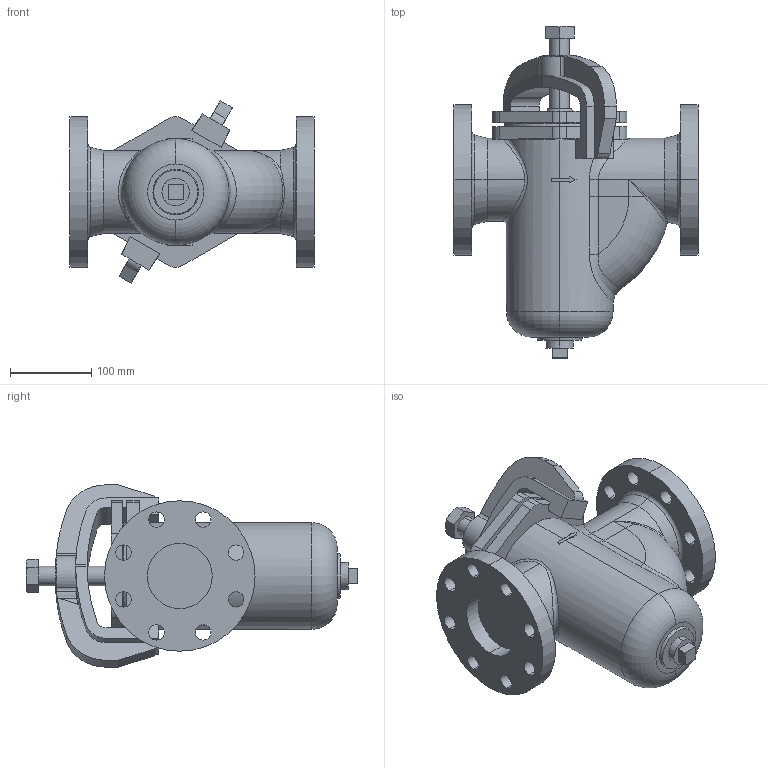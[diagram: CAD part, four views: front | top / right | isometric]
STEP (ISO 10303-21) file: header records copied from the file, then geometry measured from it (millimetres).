
FILE_DESCRIPTION (( 'STEP AP203' ), '1' );
FILE_NAME ('SU-20S 80A.STEP', '2025-12-15T02:27:32', ( '' ), ( '' ), 'SwSTEP 2.0', 'SolidWorks 2024', '' );
FILE_SCHEMA (( 'CONFIG_CONTROL_DESIGN' ));
Length unit declared in the file: millimetre
Products named in the file (4): SU-20S Bolt 80A; SU-20S Body-P 80A; SU-20S 80A; SU-20S Arm 80A
Assembly tree (3 placements, depth 2):
  SU-20S 80A
    SU-20S Body-P 80A
    SU-20S Arm 80A
    SU-20S Bolt 80A
Bounding box: 300 x 408.1 x 224.14 mm (x, y, z)
Volume: 6858744.3 mm3; surface area: 426355.5 mm2
Topology: 3 solids, 3 shells, 221 faces, 579 edges, 375 vertices
Faces by surface type: cylinder 99, plane 85, cone 19, torus 7, sphere 6, bspline 5
Entity records: 9631 total; most frequent: CARTESIAN_POINT 3701, DIRECTION 1170, ORIENTED_EDGE 1156, EDGE_CURVE 578, AXIS2_PLACEMENT_3D 447, VERTEX_POINT 375, VECTOR 276, LINE 276
